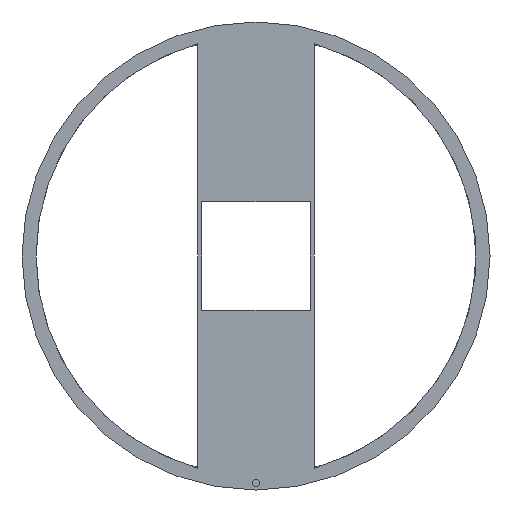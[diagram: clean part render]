
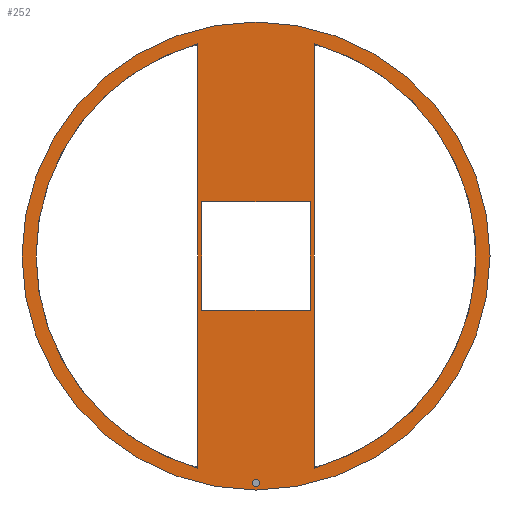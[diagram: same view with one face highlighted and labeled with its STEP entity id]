
A CAD part, front view. The second image highlights one B-rep face of the part: STEP entity #252.
In plain terms, the highlighted planar face has unit normal (0, -1, 0).
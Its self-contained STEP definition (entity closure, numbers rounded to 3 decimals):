
#16=FACE_BOUND('',#94,.T.);
#17=FACE_BOUND('',#95,.T.);
#18=FACE_BOUND('',#96,.T.);
#19=FACE_BOUND('',#97,.T.);
#25=LINE('',#380,#48);
#29=LINE('',#389,#52);
#32=LINE('',#397,#55);
#35=LINE('',#403,#58);
#38=LINE('',#409,#61);
#41=LINE('',#413,#64);
#48=VECTOR('',#309,10.);
#52=VECTOR('',#315,10.);
#55=VECTOR('',#320,10.);
#58=VECTOR('',#325,10.);
#61=VECTOR('',#330,10.);
#64=VECTOR('',#335,10.);
#79=FACE_OUTER_BOUND('',#93,.T.);
#93=EDGE_LOOP('',(#204));
#94=EDGE_LOOP('',(#205));
#95=EDGE_LOOP('',(#206,#207,#208));
#96=EDGE_LOOP('',(#209,#210));
#97=EDGE_LOOP('',(#211,#212,#213,#214));
#103=CIRCLE('',#273,2.);
#106=CIRCLE('',#284,125.);
#107=CIRCLE('',#285,117.5);
#108=CIRCLE('',#286,117.5);
#109=CIRCLE('',#287,117.5);
#113=VERTEX_POINT('',#369);
#114=VERTEX_POINT('',#373);
#117=VERTEX_POINT('',#378);
#118=VERTEX_POINT('',#382);
#121=VERTEX_POINT('',#387);
#124=VERTEX_POINT('',#394);
#125=VERTEX_POINT('',#396);
#127=VERTEX_POINT('',#402);
#129=VERTEX_POINT('',#408);
#130=VERTEX_POINT('',#418);
#131=VERTEX_POINT('',#420);
#136=EDGE_CURVE('',#113,#113,#103,.T.);
#140=EDGE_CURVE('',#114,#117,#25,.T.);
#144=EDGE_CURVE('',#118,#121,#29,.T.);
#147=EDGE_CURVE('',#125,#124,#32,.T.);
#150=EDGE_CURVE('',#127,#125,#35,.T.);
#153=EDGE_CURVE('',#129,#127,#38,.T.);
#156=EDGE_CURVE('',#124,#129,#41,.T.);
#159=EDGE_CURVE('',#130,#130,#106,.T.);
#160=EDGE_CURVE('',#117,#131,#107,.T.);
#161=EDGE_CURVE('',#131,#114,#108,.T.);
#162=EDGE_CURVE('',#121,#118,#109,.T.);
#204=ORIENTED_EDGE('',*,*,#159,.T.);
#205=ORIENTED_EDGE('',*,*,#136,.T.);
#206=ORIENTED_EDGE('',*,*,#140,.T.);
#207=ORIENTED_EDGE('',*,*,#160,.T.);
#208=ORIENTED_EDGE('',*,*,#161,.T.);
#209=ORIENTED_EDGE('',*,*,#144,.T.);
#210=ORIENTED_EDGE('',*,*,#162,.T.);
#211=ORIENTED_EDGE('',*,*,#156,.T.);
#212=ORIENTED_EDGE('',*,*,#153,.T.);
#213=ORIENTED_EDGE('',*,*,#150,.T.);
#214=ORIENTED_EDGE('',*,*,#147,.T.);
#241=PLANE('',#283);
#252=ADVANCED_FACE('',(#79,#16,#17,#18,#19),#241,.F.);
#273=AXIS2_PLACEMENT_3D('',#371,#302,#303);
#283=AXIS2_PLACEMENT_3D('',#417,#342,#343);
#284=AXIS2_PLACEMENT_3D('',#419,#344,#345);
#285=AXIS2_PLACEMENT_3D('',#421,#346,#347);
#286=AXIS2_PLACEMENT_3D('',#422,#348,#349);
#287=AXIS2_PLACEMENT_3D('',#423,#350,#351);
#302=DIRECTION('center_axis',(0.,1.,0.));
#303=DIRECTION('ref_axis',(1.,0.,0.));
#309=DIRECTION('',(0.,0.,-1.));
#315=DIRECTION('',(0.,0.,1.));
#320=DIRECTION('',(0.,0.,-1.));
#325=DIRECTION('',(1.,0.,0.));
#330=DIRECTION('',(0.,0.,1.));
#335=DIRECTION('',(-1.,0.,0.));
#342=DIRECTION('center_axis',(0.,1.,0.));
#343=DIRECTION('ref_axis',(1.,0.,0.));
#344=DIRECTION('center_axis',(0.,-1.,0.));
#345=DIRECTION('ref_axis',(1.,0.,0.));
#346=DIRECTION('center_axis',(0.,1.,0.));
#347=DIRECTION('ref_axis',(1.,0.,0.));
#348=DIRECTION('center_axis',(0.,1.,0.));
#349=DIRECTION('ref_axis',(1.,0.,0.));
#350=DIRECTION('center_axis',(0.,1.,0.));
#351=DIRECTION('ref_axis',(1.,0.,0.));
#369=CARTESIAN_POINT('',(-2.,-3.,-121.308));
#371=CARTESIAN_POINT('Origin',(0.,-3.,-121.308));
#373=CARTESIAN_POINT('',(-31.,-3.,113.337));
#378=CARTESIAN_POINT('',(-31.,-3.,-113.337));
#380=CARTESIAN_POINT('',(-31.,-3.,121.095));
#382=CARTESIAN_POINT('',(31.,-3.,-113.337));
#387=CARTESIAN_POINT('',(31.,-3.,113.337));
#389=CARTESIAN_POINT('',(31.,-3.,-121.095));
#394=CARTESIAN_POINT('',(29.,-3.,-29.));
#396=CARTESIAN_POINT('',(29.,-3.,29.));
#397=CARTESIAN_POINT('',(29.,-3.,-29.));
#402=CARTESIAN_POINT('',(-29.,-3.,29.));
#403=CARTESIAN_POINT('',(29.,-3.,29.));
#408=CARTESIAN_POINT('',(-29.,-3.,-29.));
#409=CARTESIAN_POINT('',(-29.,-3.,29.));
#413=CARTESIAN_POINT('',(-29.,-3.,-29.));
#417=CARTESIAN_POINT('Origin',(0.,-3.,0.));
#418=CARTESIAN_POINT('',(-125.,-3.,0.));
#419=CARTESIAN_POINT('Origin',(0.,-3.,0.));
#420=CARTESIAN_POINT('',(-117.5,-3.,0.));
#421=CARTESIAN_POINT('Origin',(0.,-3.,0.));
#422=CARTESIAN_POINT('Origin',(0.,-3.,0.));
#423=CARTESIAN_POINT('Origin',(0.,-3.,0.));
